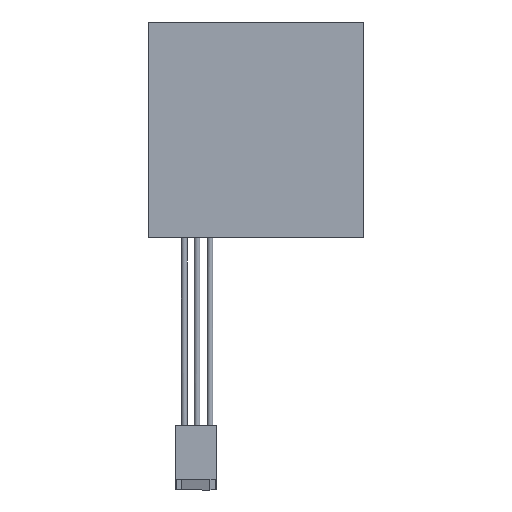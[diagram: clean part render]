
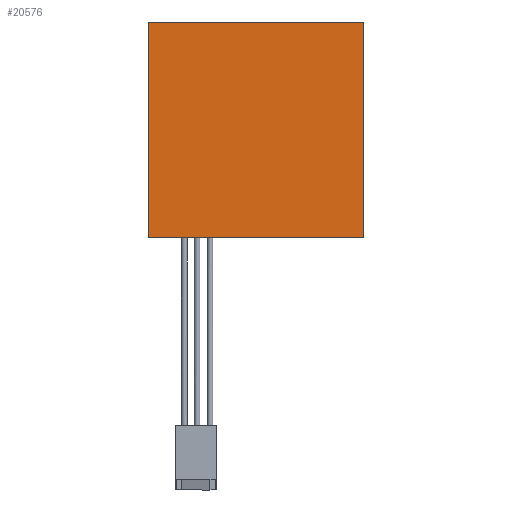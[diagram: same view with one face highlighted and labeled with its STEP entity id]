
A CAD part, front view. The second image highlights one B-rep face of the part: STEP entity #20576.
In plain terms, the highlighted planar face has unit normal (0, -1, 0).
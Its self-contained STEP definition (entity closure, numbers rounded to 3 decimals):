
#712 = VERTEX_POINT ( 'NONE', #16429 ) ;
#5625 = EDGE_CURVE ( 'NONE', #49409, #712, #47272, .T. ) ;
#6439 = DIRECTION ( 'NONE',  ( 0., 0., 1. ) ) ;
#8283 = VECTOR ( 'NONE', #24966, 1000. ) ;
#10903 = DIRECTION ( 'NONE',  ( -1., 0., 0. ) ) ;
#13398 = CARTESIAN_POINT ( 'NONE',  ( 21.209, -0.127, -21.209 ) ) ;
#15525 = VECTOR ( 'NONE', #10903, 1000. ) ;
#16219 = CARTESIAN_POINT ( 'NONE',  ( 21.209, -0.127, -21.209 ) ) ;
#16429 = CARTESIAN_POINT ( 'NONE',  ( -21.209, -0.127, -21.209 ) ) ;
#20542 = EDGE_CURVE ( 'NONE', #32257, #38322, #38653, .T. ) ;
#20576 = ADVANCED_FACE ( 'NONE', ( #43824 ), #43518, .F. ) ;
#20738 = EDGE_LOOP ( 'NONE', ( #25892, #29998, #36185, #38661 ) ) ;
#23873 = VECTOR ( 'NONE', #42924, 1000. ) ;
#24199 = CARTESIAN_POINT ( 'NONE',  ( -21.209, -0.127, -21.209 ) ) ;
#24913 = CARTESIAN_POINT ( 'NONE',  ( -21.209, -0.127, -21.209 ) ) ;
#24966 = DIRECTION ( 'NONE',  ( 0., 0., -1. ) ) ;
#25258 = LINE ( 'NONE', #16219, #8283 ) ;
#25892 = ORIENTED_EDGE ( 'NONE', *, *, #48358, .F. ) ;
#28922 = DIRECTION ( 'NONE',  ( 0., 0., 1. ) ) ;
#29998 = ORIENTED_EDGE ( 'NONE', *, *, #5625, .F. ) ;
#32257 = VERTEX_POINT ( 'NONE', #36717 ) ;
#32374 = VECTOR ( 'NONE', #6439, 1000. ) ;
#35230 = EDGE_CURVE ( 'NONE', #38322, #49409, #25258, .T. ) ;
#36185 = ORIENTED_EDGE ( 'NONE', *, *, #35230, .F. ) ;
#36717 = CARTESIAN_POINT ( 'NONE',  ( -21.209, -0.127, 21.209 ) ) ;
#38322 = VERTEX_POINT ( 'NONE', #57980 ) ;
#38653 = LINE ( 'NONE', #48397, #23873 ) ;
#38661 = ORIENTED_EDGE ( 'NONE', *, *, #20542, .F. ) ;
#42258 = AXIS2_PLACEMENT_3D ( 'NONE', #57491, #56865, #28922 ) ;
#42924 = DIRECTION ( 'NONE',  ( 1., 0., 0. ) ) ;
#43518 = PLANE ( 'NONE',  #42258 ) ;
#43824 = FACE_OUTER_BOUND ( 'NONE', #20738, .T. ) ;
#47272 = LINE ( 'NONE', #24199, #15525 ) ;
#48358 = EDGE_CURVE ( 'NONE', #712, #32257, #56782, .T. ) ;
#48397 = CARTESIAN_POINT ( 'NONE',  ( -21.209, -0.127, 21.209 ) ) ;
#49409 = VERTEX_POINT ( 'NONE', #13398 ) ;
#56782 = LINE ( 'NONE', #24913, #32374 ) ;
#56865 = DIRECTION ( 'NONE',  ( 0., 1., 0. ) ) ;
#57491 = CARTESIAN_POINT ( 'NONE',  ( -21.209, -0.127, 21.209 ) ) ;
#57980 = CARTESIAN_POINT ( 'NONE',  ( 21.209, -0.127, 21.209 ) ) ;
